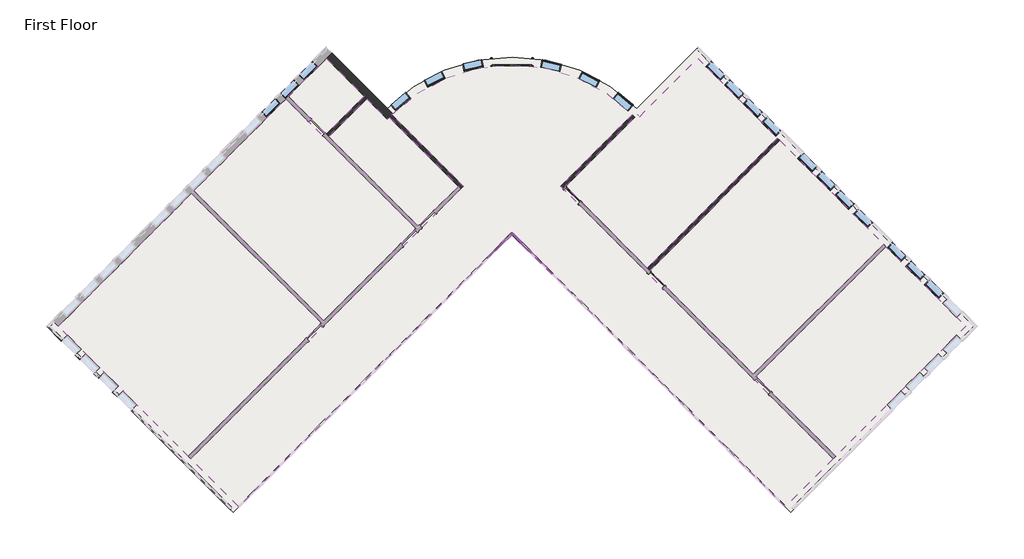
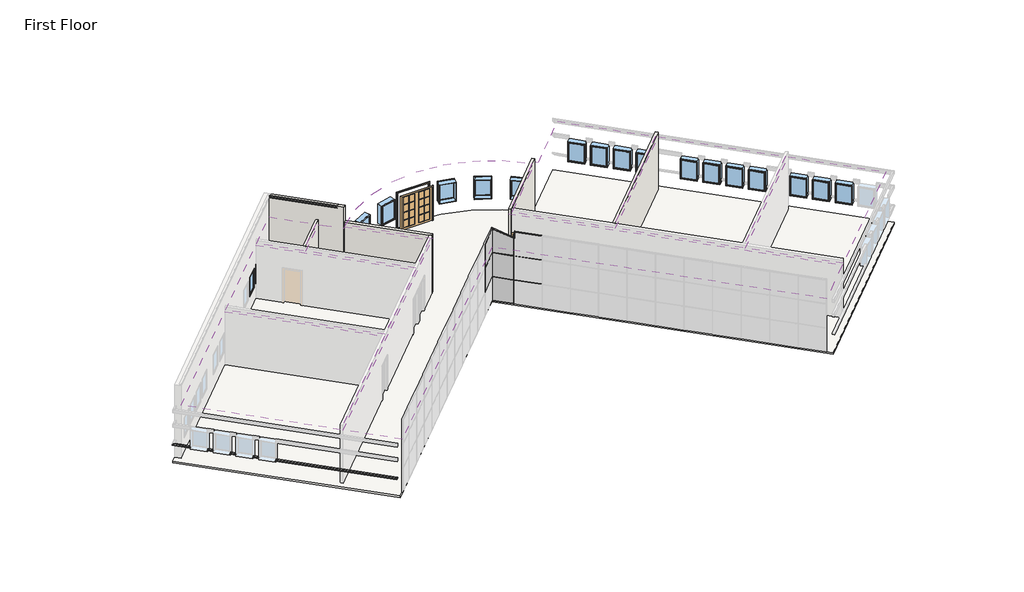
# One storey, part 4 of 5: 20 windows, 19 members, 8 coverings, 5 plates, 5 walls, 3 doors, 1 proxy, 1 slab.
"""IFC4 building model written with IfcOpenShell, lengths in millimetres."""

from ifc_helpers import new_model, si_unit, point, frame, frame_2d, origin, origin_with_axes, place, context, project, spatial, polyline, circle_curve, ellipse_curve, trimmed, segment, composite_curve, outline, extrude, faceted_brep, transform, mapped, element, save
from ifc_brep_helpers import plane_surface, cylinder_surface, revolved_surface, advanced_brep
from components import door_0a477ef8, door_5f5b55da, member_155beb68, member_42be4715, member_b8a5b5c0, member_bd80eb51, member_a3731390, member_b87a50da, member_beb33b19, member_76f0c52a, member_6675e4ca, member_9574b3de, member_b73a8a31, member_4ed907bf, system_panel_glazed_d4009c89, system_panel_glazed_b4114ee2, system_panel_glazed_dc791129, system_panel_solid_99f695d0, system_panel_solid_3576f13f, window_15c49d37, window_0e2fc6ce

model = new_model("IFC4")

# Units and contexts
model_context = context("Model", 3, world=origin())
ifc_project = project(units=[si_unit("LENGTHUNIT", "METRE", prefix="MILLI")], contexts=[model_context])

# Site, building, storey
site = spatial("IfcSite", under=ifc_project)
building = spatial("IfcBuilding", under=site)
storey = spatial("IfcBuildingStorey", under=building, Name="First Floor", Elevation=0.0)

# Proxy
placement = place(None, origin())
element("IfcBuildingElementProxy", 1, Name="Wall Sweeps", at=placement, inside=storey, context=model_context, shape_type="Brep", body=[
    faceted_brep([(-15859.0913754, -9789.3274758, 1085.85), (-15924.1982323, -9854.4343326, 1085.85), (-15948.8939367, -9879.130037, 1041.4), (-15948.8939367, -9879.130037, 1016.0), (-15924.1982323, -9854.4343326, 1016.0), (-15859.0913754, -9789.3274758, 1016.0), (-20459.2275735, -5189.1912777, 1085.85), (-20459.2275735, -5189.1912777, 1016.0), (-20524.3344303, -5254.2981346, 1016.0), (-20549.0301347, -5278.993839, 1016.0), (-20549.0301347, -5278.993839, 1041.4), (-20524.3344303, -5254.2981346, 1085.85)], [[[0, 1, 2, 3, 4, 5]], [[6, 7, 8, 9, 10, 11]], [[1, 0, 6, 11]], [[2, 1, 11, 10]], [[3, 2, 10, 9]], [[5, 4, 3, 9, 8, 7]], [[0, 5, 7, 6]]]),
    faceted_brep([(-21105.8060142, -4542.612837, 1085.85), (-21170.9128711, -4607.7196939, 1085.85), (-21195.6085754, -4632.4153982, 1041.4), (-21195.6085754, -4632.4153982, 1016.0), (-21170.9128711, -4607.7196939, 1016.0), (-21105.8060142, -4542.612837, 1016.0), (-21321.3321611, -4327.0866901, 1085.85), (-21321.3321611, -4327.0866901, 1016.0), (-21386.439018, -4392.193547, 1016.0), (-21411.1347223, -4416.8892513, 1016.0), (-21411.1347223, -4416.8892513, 1041.4), (-21386.439018, -4392.193547, 1085.85)], [[[0, 1, 2, 3, 4, 5]], [[6, 7, 8, 9, 10, 11]], [[1, 0, 6, 11]], [[2, 1, 11, 10]], [[3, 2, 10, 9]], [[5, 4, 3, 9, 8, 7]], [[0, 5, 7, 6]]]),
    faceted_brep([(-21967.9106018, -3680.5082494, 1085.85), (-22033.0174587, -3745.6151063, 1085.85), (-22057.713163, -3770.3108106, 1041.4), (-22057.713163, -3770.3108106, 1016.0), (-22033.0174587, -3745.6151063, 1016.0), (-21967.9106018, -3680.5082494, 1016.0), (-22183.4367487, -3464.9821025, 1085.85), (-22183.4367487, -3464.9821025, 1016.0), (-22248.5436056, -3530.0889594, 1016.0), (-22273.2393099, -3554.7846637, 1016.0), (-22273.2393099, -3554.7846637, 1041.4), (-22248.5436056, -3530.0889594, 1085.85)], [[[0, 1, 2, 3, 4, 5]], [[6, 7, 8, 9, 10, 11]], [[1, 0, 6, 11]], [[2, 1, 11, 10]], [[3, 2, 10, 9]], [[5, 4, 3, 9, 8, 7]], [[0, 5, 7, 6]]]),
    faceted_brep([(-22830.0151894, -2818.4036618, 1085.85), (-22895.1220463, -2883.5105187, 1085.85), (-22919.8177506, -2908.206223, 1041.4), (-22919.8177506, -2908.206223, 1016.0), (-22895.1220463, -2883.5105187, 1016.0), (-22830.0151894, -2818.4036618, 1016.0), (-23045.5413363, -2602.8775149, 1085.85), (-23045.5413363, -2602.8775149, 1016.0), (-23110.6481932, -2667.9843718, 1016.0), (-23135.3438975, -2692.6800761, 1016.0), (-23135.3438975, -2692.6800761, 1041.4), (-23110.6481932, -2667.9843718, 1085.85)], [[[0, 1, 2, 3, 4, 5]], [[6, 7, 8, 9, 10, 11]], [[1, 0, 6, 11]], [[2, 1, 11, 10]], [[3, 2, 10, 9]], [[5, 4, 3, 9, 8, 7]], [[0, 5, 7, 6]]]),
    faceted_brep([(-23692.119777, -1956.2990742, 1085.85), (-23757.2266339, -2021.405931, 1085.85), (-23781.9223383, -2046.1016354, 1041.4), (-23781.9223383, -2046.1016354, 1016.0), (-23757.2266339, -2021.405931, 1016.0), (-23692.119777, -1956.2990742, 1016.0), (-24290.4293411, -1357.9895101, 1085.85), (-24290.4293411, -1357.9895101, 1016.0), (-24470.0344635, -1357.9895101, 1016.0), (-24470.0344635, -1357.9895101, 1041.4), (-24420.6430549, -1357.9895101, 1085.85)], [[[0, 1, 2, 3, 4, 5]], [[6, 7, 8, 9, 10]], [[1, 0, 6, 10]], [[2, 1, 10, 9]], [[3, 2, 9, 8]], [[5, 4, 3, 8, 7]], [[0, 5, 7, 6]]]),
])

# Coverings
element("IfcCovering", 2, ObjectType="2' x 2' ACT System", at=placement, inside=storey, context=model_context, shape_type="SweptSolid", body=[
    extrude(outline(polyline([(-11706.7276692, -1216.4326939), (-17885.2616628, -7394.9666875), (-23922.2388402, -1357.9895101), (-17743.7048466, 4820.5444835), (-11706.7276692, -1216.4326939)])), frame((0.0, 0.0, 3352.8), z_axis=(0.0, 0.0, 1.0), x_axis=(1.0, 0.0, 0.0)), (0.0, 0.0, 1.0), 57.15),
])
element("IfcCovering", 3, ObjectType="2' x 2' ACT System", at=placement, inside=storey, context=model_context, shape_type="SweptSolid", body=[
    extrude(outline(polyline([(-17633.6967091, 4930.552621), (-13359.2125777, 9205.0367523), (-7322.2354004, 3168.0595749), (-11596.7195317, -1106.4245564), (-17633.6967091, 4930.552621)])), frame((0.0, 0.0, 3352.8), z_axis=(0.0, 0.0, 1.0), x_axis=(1.0, 0.0, 0.0)), (0.0, 0.0, 1.0), 57.15),
])
element("IfcCovering", 4, ObjectType="2' x 2' ACT System", at=placement, inside=storey, context=model_context, shape_type="SweptSolid", body=[
    extrude(outline(polyline([(-13249.2044403, 9315.0448898), (-11489.0742405, 11075.1750895), (-9728.9440408, 9315.0448898), (-11489.0742405, 7554.9146901), (-13249.2044403, 9315.0448898)])), frame((0.0, 0.0, 3352.8), z_axis=(0.0, 0.0, 1.0), x_axis=(1.0, 0.0, 0.0)), (0.0, 0.0, 1.0), 57.15),
])
element("IfcCovering", 5, ObjectType="2' x 2' ACT System", at=placement, inside=storey, context=model_context, shape_type="SweptSolid", body=[
    extrude(outline(composite_curve([segment(polyline([(-11379.066103, 7444.9065526), (-9618.9359033, 9205.0367523), (-8658.0122729, 8244.1131219)]), True, "CONTINUOUS"), segment(trimmed(circle_curve(frame_2d((-2868.0283643, 2903.1420194)), 7877.175), [point((-8658.0122729, 8244.1131219))], [point((-8557.7157352, 8350.8336041))], False, "CARTESIAN"), True, "CONTINUOUS"), segment(polyline([(-8557.7157352, 8350.8336041), (-5348.5885532, 5141.7064221), (-7212.2272629, 3278.0677124), (-11379.066103, 7444.9065526)]), True, "CONTINUOUS")], self_intersect=False)), frame((0.0, 0.0, 3352.8), z_axis=(0.0, 0.0, 1.0), x_axis=(1.0, 0.0, 0.0)), (0.0, 0.0, 1.0), 57.15),
])
element("IfcCovering", 6, ObjectType="2' x 2' ACT System", at=placement, inside=storey, context=model_context, shape_type="SweptSolid", body=[
    extrude(outline(composite_curve([segment(polyline([(-607.4844504, 5141.7064221), (12039.1967967, -7504.974825), (9814.3383427, -9729.833279), (-2868.0283643, 2952.533428), (-15550.3950713, -9729.833279), (-17775.2535253, -7504.974825), (-5128.5722782, 5141.7064221), (-8449.0111375, 8462.1452813)]), True, "CONTINUOUS"), segment(trimmed(circle_curve(frame_2d((-2868.0283643, 2903.1420194)), 7877.175), [point((-8449.0111375, 8462.1452813))], [point((2712.9544089, 8462.1452813))], False, "CARTESIAN"), True, "CONTINUOUS"), segment(polyline([(2712.9544089, 8462.1452813), (-607.4844504, 5141.7064221)]), True, "CONTINUOUS")], self_intersect=False)), frame((0.0, 0.0, 3352.8), z_axis=(0.0, 0.0, 1.0), x_axis=(1.0, 0.0, 0.0)), (0.0, 0.0, 1.0), 57.15),
])
element("IfcCovering", 7, ObjectType="2' x 2' ACT System", at=placement, inside=storey, context=model_context, shape_type="SweptSolid", body=[
    extrude(outline(polyline([(2947.192033, 8476.3666305), (3050.2065213, 8372.3640989), (5753.0175119, 11075.1750895), (9452.8830338, 7375.3095676), (3415.9058564, 1338.3323903), (-387.4681754, 5141.7064221), (2947.192033, 8476.3666305)])), frame((0.0, 0.0, 3352.8), z_axis=(0.0, 0.0, 1.0), x_axis=(1.0, 0.0, 0.0)), (0.0, 0.0, 1.0), 57.15),
])
element("IfcCovering", 8, ObjectType="2' x 2' ACT System", at=placement, inside=storey, context=model_context, shape_type="SweptSolid", body=[
    extrude(outline(polyline([(3525.9139939, 1228.3242528), (9562.8911713, 7265.3014302), (14376.3084522, 2451.8841493), (8339.3312748, -3585.0930281), (3525.9139939, 1228.3242528)])), frame((0.0, 0.0, 3352.8), z_axis=(0.0, 0.0, 1.0), x_axis=(1.0, 0.0, 0.0)), (0.0, 0.0, 1.0), 57.15),
])
element("IfcCovering", 9, ObjectType="2' x 2' ACT System", at=placement, inside=storey, context=model_context, shape_type="SweptSolid", body=[
    extrude(outline(polyline([(8449.3394123, -3695.1011656), (14486.3165897, 2341.8760118), (18186.1821115, -1357.9895101), (12149.2049342, -7394.9666875), (8449.3394123, -3695.1011656)])), frame((0.0, 0.0, 3352.8), z_axis=(0.0, 0.0, 1.0), x_axis=(1.0, 0.0, 0.0)), (0.0, 0.0, 1.0), 57.15),
])

# Doors
door_shape = door_0a477ef8(model_context)
element("IfcDoor", 10, ObjectType="Double-Glass 2 : 72\" x 84\"", at=placement, inside=storey, context=model_context, shape_type="MappedRepresentation", body=[
    mapped(door_shape, transform((-2868.7603243, 10905.5717204, 0.0), x_axis=(-0.9999999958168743, -9.146721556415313e-05, 0.0), y_axis=(9.146721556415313e-05, -0.9999999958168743, 0.0), z_axis=(0.0, 0.0, 1.0))),
])
door_2_shape = door_5f5b55da(model_context)
element("IfcDoor", 11, ObjectType="Single-Glass 1 : 36\" x 84\"", at=placement, inside=storey, context=model_context, shape_type="MappedRepresentation", body=[
    mapped(door_2_shape, transform((-66.4240191, 4710.6541283, 0.0), x_axis=(-0.7071067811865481, 0.7071067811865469, 0.0), y_axis=(-0.7071067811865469, -0.7071067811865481, 0.0), z_axis=(0.0, 0.0, 1.0))),
])
element("IfcDoor", 12, ObjectType="Single-Glass 1 : 36\" x 84\"", at=placement, inside=storey, context=model_context, shape_type="MappedRepresentation", body=[
    mapped(door_2_shape, transform((3846.9581502, 797.271959, 0.0), x_axis=(-0.7071067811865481, 0.7071067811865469, 0.0), y_axis=(-0.7071067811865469, -0.7071067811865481, 0.0), z_axis=(0.0, 0.0, 1.0))),
])

# Members
member_shape = member_155beb68(model_context)
element("IfcMember", 13, ObjectType="Rectangular Mullion : 1.5\" x 2.5\" Rectangular", at=placement, inside=storey, context=model_context, shape_type="MappedRepresentation", body=[
    mapped(member_shape, transform((-2039.5997371, 2124.1048009, 1524.0), x_axis=(-0.7071067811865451, 0.70710678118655, 0.0), y_axis=(0.70710678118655, 0.7071067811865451, 0.0), z_axis=(0.0, 0.0, -1.0))),
])
element("IfcMember", 14, ObjectType="Rectangular Mullion : 1.5\" x 2.5\" Rectangular", at=placement, inside=storey, context=model_context, shape_type="MappedRepresentation", body=[
    mapped(member_shape, transform((-2039.5997371, 2124.1048009, 0.0), x_axis=(-0.7071067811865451, 0.70710678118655, 0.0), y_axis=(0.70710678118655, 0.7071067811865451, 0.0), z_axis=(0.0, 0.0, -1.0))),
])
member_2_shape = member_42be4715(model_context)
element("IfcMember", 15, ObjectType="Rectangular Mullion : 1.5\" x 2.5\" Rectangular", at=placement, inside=storey, context=model_context, shape_type="MappedRepresentation", body=[
    mapped(member_2_shape, transform((-2026.129353, 2110.6344167, 3048.0), x_axis=(0.0, 0.0, 1.0), y_axis=(0.7071067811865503, 0.7071067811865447, 0.0), z_axis=(-0.7071067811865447, 0.7071067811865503, 0.0))),
])
element("IfcMember", 16, ObjectType="Rectangular Mullion : 1.5\" x 2.5\" Rectangular", at=placement, inside=storey, context=model_context, shape_type="MappedRepresentation", body=[
    mapped(member_2_shape, transform((-2026.129353, 2110.6344167, 1524.0), x_axis=(0.0, 0.0, 1.0), y_axis=(0.7071067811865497, 0.7071067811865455, 0.0), z_axis=(-0.7071067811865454, 0.7071067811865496, 0.0))),
])
member_3_shape = member_b8a5b5c0(model_context)
element("IfcMember", 17, ObjectType="Rectangular Mullion : 1.5\" x 2.5\" Rectangular", at=placement, inside=storey, context=model_context, shape_type="MappedRepresentation", body=[
    mapped(member_3_shape, transform((-2894.9691327, 2925.5926597, 0.0), x_axis=(0.0, 0.0, -1.0), y_axis=(-0.7071067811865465, 0.7071067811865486, 0.0), z_axis=(0.7071067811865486, 0.7071067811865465, 0.0))),
])
member_4_shape = member_bd80eb51(model_context)
element("IfcMember", 18, ObjectType="Rectangular Mullion : 1.5\" x 2.5\" Rectangular", at=placement, inside=storey, context=model_context, shape_type="MappedRepresentation", body=[
    mapped(member_4_shape, transform((-2053.0701213, 2137.575185, 0.0), x_axis=(0.0, 0.0, -1.0), y_axis=(0.7071067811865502, 0.7071067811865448, 0.0), z_axis=(0.7071067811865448, -0.7071067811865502, 0.0))),
])
member_5_shape = member_a3731390(model_context)
element("IfcMember", 19, ObjectType="Rectangular Mullion : 1.5\" x 2.5\" Rectangular", at=placement, inside=storey, context=model_context, shape_type="MappedRepresentation", body=[
    mapped(member_5_shape, transform((-2841.0875959, 2925.5926597, 3048.0), x_axis=(0.0, 0.0, 1.0), y_axis=(0.7071067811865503, 0.7071067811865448, 0.0), z_axis=(-0.7071067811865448, 0.7071067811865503, 0.0))),
])
element("IfcMember", 20, ObjectType="Rectangular Mullion : 1.5\" x 2.5\" Rectangular", at=placement, inside=storey, context=model_context, shape_type="MappedRepresentation", body=[
    mapped(member_5_shape, transform((-2841.0875959, 2925.5926597, 1524.0), x_axis=(0.0, 0.0, 1.0), y_axis=(0.7071067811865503, 0.7071067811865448, 0.0), z_axis=(-0.7071067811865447, 0.7071067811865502, 0.0))),
])
member_6_shape = member_b87a50da(model_context)
element("IfcMember", 21, ObjectType="Rectangular Mullion : 1.5\" x 2.5\" Rectangular", at=placement, inside=storey, context=model_context, shape_type="MappedRepresentation", body=[
    mapped(member_6_shape, transform((-2868.0283643, 2952.533428, 1524.0), x_axis=(0.7071067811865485, 0.7071067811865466, 0.0), y_axis=(-0.7071067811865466, 0.7071067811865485, 0.0), z_axis=(0.0, 0.0, 1.0))),
])
element("IfcMember", 22, ObjectType="Rectangular Mullion : 1.5\" x 2.5\" Rectangular", at=placement, inside=storey, context=model_context, shape_type="MappedRepresentation", body=[
    mapped(member_6_shape, transform((-2868.0283643, 2952.533428, 3048.0), x_axis=(0.7071067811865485, 0.7071067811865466, 0.0), y_axis=(-0.7071067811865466, 0.7071067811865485, 0.0), z_axis=(0.0, 0.0, 1.0))),
])
element("IfcMember", 23, ObjectType="Rectangular Mullion : 1.5\" x 2.5\" Rectangular", at=placement, inside=storey, context=model_context, shape_type="MappedRepresentation", body=[
    mapped(member_6_shape, transform((-2868.0283643, 2952.533428, 4572.0), x_axis=(0.7071067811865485, 0.7071067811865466, 0.0), y_axis=(-0.7071067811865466, 0.7071067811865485, 0.0), z_axis=(0.0, 0.0, 1.0))),
])
element("IfcMember", 24, ObjectType="Rectangular Mullion : 1.5\" x 2.5\" Rectangular", at=placement, inside=storey, context=model_context, shape_type="MappedRepresentation", body=[
    mapped(member_6_shape, transform((-2868.0283643, 2952.533428, 0.0), x_axis=(-0.7071067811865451, 0.70710678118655, 0.0), y_axis=(0.70710678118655, 0.7071067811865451, 0.0), z_axis=(0.0, 0.0, -1.0))),
])
element("IfcMember", 25, ObjectType="Rectangular Mullion : 1.5\" x 2.5\" Rectangular", at=placement, inside=storey, context=model_context, shape_type="MappedRepresentation", body=[
    mapped(member_6_shape, transform((-2868.0283643, 2952.533428, 1524.0), x_axis=(-0.7071067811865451, 0.70710678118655, 0.0), y_axis=(0.70710678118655, 0.7071067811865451, 0.0), z_axis=(0.0, 0.0, -1.0))),
])
member_7_shape = member_beb33b19(model_context)
element("IfcMember", 26, ObjectType="Rectangular Mullion : 1.5\" x 2.5\" Rectangular", at=placement, inside=storey, context=model_context, shape_type="MappedRepresentation", body=[
    mapped(member_7_shape, transform((-2039.5997371, 2124.1048009, 4181.475), x_axis=(0.22360679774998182, -0.22360679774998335, 0.9486832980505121), y_axis=(0.7071067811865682, 0.7071067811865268, 0.0), z_axis=(-0.670820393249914, 0.6708203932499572, 0.316227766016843))),
])
member_8_shape = member_76f0c52a(model_context)
element("IfcMember", 27, ObjectType="Rectangular Mullion : 1.5\" x 2.5\" Rectangular", at=placement, inside=storey, context=model_context, shape_type="MappedRepresentation", body=[
    mapped(member_8_shape, transform((-2868.0283643, 2952.533428, 4572.0), x_axis=(0.22360679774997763, -0.22360679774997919, 0.9486832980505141), y_axis=(0.7071067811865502, 0.7071067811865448, 0.0), z_axis=(-0.6708203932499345, 0.6708203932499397, 0.3162277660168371))),
])
member_9_shape = member_6675e4ca(model_context)
element("IfcMember", 28, ObjectType="Rectangular Mullion : 1.5\" x 2.5\" Rectangular", at=placement, inside=storey, context=model_context, shape_type="MappedRepresentation", body=[
    mapped(member_9_shape, transform((-2005.9237767, 2090.4288404, 4165.6), x_axis=(-0.7071067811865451, 0.70710678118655, 0.0), y_axis=(0.70710678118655, 0.7071067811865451, 0.0), z_axis=(0.0, 0.0, -1.0))),
])
member_10_shape = member_9574b3de(model_context)
element("IfcMember", 29, ObjectType="Rectangular Mullion : 1.5\" x 2.5\" Rectangular", at=placement, inside=storey, context=model_context, shape_type="MappedRepresentation", body=[
    mapped(member_10_shape, transform((-1978.9830083, 2063.488072, 4572.0), x_axis=(0.0, 0.0, 1.0), y_axis=(0.707106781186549, 0.7071067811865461, 0.0), z_axis=(-0.707106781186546, 0.7071067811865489, 0.0))),
])
member_11_shape = member_b73a8a31(model_context)
element("IfcMember", 30, ObjectType="Rectangular Mullion : 1.5\" x 2.5\" Rectangular", at=placement, inside=storey, context=model_context, shape_type="MappedRepresentation", body=[
    mapped(member_11_shape, transform((-2039.5997371, 2124.1048009, 3048.0), x_axis=(-0.7071067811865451, 0.70710678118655, 0.0), y_axis=(0.70710678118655, 0.7071067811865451, 0.0), z_axis=(0.0, 0.0, -1.0))),
])
member_12_shape = member_4ed907bf(model_context)
element("IfcMember", 31, ObjectType="Rectangular Mullion : 1.5\" x 2.5\" Rectangular", at=placement, inside=storey, context=model_context, shape_type="MappedRepresentation", body=[
    mapped(member_12_shape, transform((-2868.0283643, 2952.533428, 3048.0), x_axis=(-0.7071067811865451, 0.70710678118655, 0.0), y_axis=(0.70710678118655, 0.7071067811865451, 0.0), z_axis=(0.0, 0.0, -1.0))),
])

# Plates
system_panel_glazed_shape = system_panel_glazed_d4009c89(model_context)
element("IfcPlate", 32, ObjectType="System Panel : Glazed", at=placement, inside=storey, context=model_context, shape_type="MappedRepresentation", body=[
    mapped(system_panel_glazed_shape, transform((-3413.5789237, 2406.9828687, 1543.05), x_axis=(-0.7071067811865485, -0.7071067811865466, 0.0), y_axis=(0.7071067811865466, -0.7071067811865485, 0.0), z_axis=(0.0, 0.0, 1.0))),
])
system_panel_glazed_2_shape = system_panel_glazed_b4114ee2(model_context)
element("IfcPlate", 33, ObjectType="System Panel : Glazed", at=placement, inside=storey, context=model_context, shape_type="MappedRepresentation", body=[
    mapped(system_panel_glazed_2_shape, transform((-2447.0788586, 2531.5839223, 38.1), x_axis=(-0.7071067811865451, 0.70710678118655, 0.0), y_axis=(-0.70710678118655, -0.7071067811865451, 0.0), z_axis=(0.0, 0.0, 1.0))),
])
system_panel_glazed_3_shape = system_panel_glazed_dc791129(model_context)
element("IfcPlate", 34, ObjectType="System Panel : Glazed", at=placement, inside=storey, context=model_context, shape_type="MappedRepresentation", body=[
    mapped(system_panel_glazed_3_shape, transform((-2447.0788586, 2531.5839223, 1543.05), x_axis=(-0.7071067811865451, 0.70710678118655, 0.0), y_axis=(-0.70710678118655, -0.7071067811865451, 0.0), z_axis=(0.0, 0.0, 1.0))),
])
system_panel_solid_shape = system_panel_solid_99f695d0(model_context)
element("IfcPlate", 35, ObjectType="System Panel : Solid", at=placement, inside=storey, context=model_context, shape_type="MappedRepresentation", body=[
    mapped(system_panel_solid_shape, transform((-3413.5789237, 2406.9828687, 3067.05), x_axis=(-0.7071067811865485, -0.7071067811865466, 0.0), y_axis=(0.7071067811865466, -0.7071067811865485, 0.0), z_axis=(0.0, 0.0, 1.0))),
])
system_panel_solid_2_shape = system_panel_solid_3576f13f(model_context)
element("IfcPlate", 36, ObjectType="System Panel : Solid", at=placement, inside=storey, context=model_context, shape_type="MappedRepresentation", body=[
    mapped(system_panel_solid_2_shape, transform((-2447.0788586, 2531.5839223, 3067.05), x_axis=(-0.7071067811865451, 0.70710678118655, 0.0), y_axis=(-0.70710678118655, -0.7071067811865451, 0.0), z_axis=(0.0, 0.0, 1.0))),
])

# Slab
element("IfcSlab", 37, ObjectType="4\" Concrete Slab", at=placement, inside=storey, context=model_context, shape_type="SweptSolid", body=[
    extrude(outline(composite_curve([segment(polyline([(2926.4294954, 8746.9912878), (5753.0175119, 11573.5793042), (18684.5863263, -1357.9895101), (10063.54045, -9979.0353863), (-2868.0283643, 2952.533428), (-15799.5971786, -9979.0353863), (-24420.6430549, -1357.9895101), (-11489.0742405, 11573.5793042), (-8662.486224, 8746.9912878)]), True, "CONTINUOUS"), segment(trimmed(circle_curve(frame_2d((-2868.0283643, 2903.1420194)), 8229.6), [point((-8662.486224, 8746.9912878))], [point((2926.4294954, 8746.9912878))], False, "CARTESIAN"), True, "CONTINUOUS")], self_intersect=False)), frame((0.0, 0.0, -101.6), z_axis=(0.0, 0.0, 1.0), x_axis=(1.0, 0.0, 0.0)), (0.0, 0.0, 1.0), 101.6),
])

# Walls
element("IfcWall", 38, ObjectType="Exterior - Split Face and CMU on Mtl. Stud", at=placement, inside=storey, context=model_context, shape_type="AdvancedBrep", body=[
    advanced_brep(
    [(-11489.0742405, 11075.1750895, 0.0), (-9728.9440408, 9315.0448898, 0.0), (-9618.9359033, 9205.0367523, 0.0), (-8658.0122729, 8244.1131219, 0.0), (-8658.0122729, 8244.1131219, 4689.475), (-11489.0742405, 11075.1750895, 4689.475), (-11489.0742405, 11075.1750895, 4639.3965909), (-8911.6883314, 8497.7891804, 4639.3965909), (-8911.6883314, 8497.7891804, 4572.0), (-11489.0742405, 11075.1750895, 4572.0), (-8413.2817722, 8497.7868359, 4572.0), (-8413.2817722, 8497.7868359, 0.0), (-8662.486224, 8746.9912878, 0.0), (-11239.8721332, 11324.3771969, 0.0), (-11239.8721332, 11324.3771969, 1016.0), (-8662.486224, 8746.9912878, 1016.0), (-8597.3787742, 8681.8838379, 1016.0), (-8597.3787742, 8681.8838379, 1085.85), (-8662.486224, 8746.9912878, 1085.85), (-11239.8721332, 11324.3771969, 1085.85), (-11239.8721332, 11324.3771969, 2133.6), (-8662.486224, 8746.9912878, 2133.6), (-8597.3787742, 8681.8838379, 2133.6), (-8597.3787742, 8681.8838379, 2336.8), (-8662.486224, 8746.9912878, 2336.8), (-11239.8721332, 11324.3771969, 2336.8), (-11239.8721332, 11324.3771969, 3048.0), (-8662.486224, 8746.9912878, 3048.0), (-8597.3787742, 8681.8838379, 3048.0), (-8597.3787742, 8681.8838379, 3251.2), (-8662.486224, 8746.9912878, 3251.2), (-11239.8721332, 11324.3771969, 3251.2), (-11239.8721332, 11324.3771969, 4572.0), (-8662.486224, 8746.9912878, 4572.0), (-8557.713594, 8350.8358404, 0.0), (-8478.2967797, 8432.5881297, 0.0), (-8449.0111375, 8462.1452813, 0.0), (-11304.9789901, 11259.27034, 0.0), (-11304.9789901, 11259.27034, 3251.2), (-11304.9789901, 11259.27034, 3048.0), (-11304.9789901, 11259.27034, 2336.8), (-11304.9789901, 11259.27034, 2133.6), (-11304.9789901, 11259.27034, 1085.85), (-11304.9789901, 11259.27034, 1016.0), (-11413.683542, 11150.5657881, 4653.9354839), (-8836.2976328, 8573.179879, 4653.9354839), (-8662.3967205, 8616.6880705, 1085.85), (-8662.3967205, 8616.6880705, 1016.0), (-8662.3967205, 8616.6880705, 2336.8), (-8662.3967205, 8616.6880705, 2133.6), (-8662.3967205, 8616.6880705, 3251.2), (-8662.3967205, 8616.6880705, 3048.0)],
    [
        (0, 1),
        (1, 2),
        (2, 3),
        (3, 4),
        (4, 5),
        (5, 6),
        (6, 7),
        (7, 8),
        (8, 9),
        (9, 0),
        (10, 11),
        (11, 12),
        (12, 13),
        (13, 14),
        (14, 15),
        (15, 16),
        (16, 17),
        (17, 18),
        (18, 19),
        (19, 20),
        (20, 21),
        (21, 22),
        (22, 23),
        (23, 24),
        (24, 25),
        (25, 26),
        (26, 27),
        (27, 28),
        (28, 29),
        (29, 30),
        (30, 31),
        (31, 32),
        (32, 33),
        (33, 10),
        (3, 34, circle_curve(frame((-2868.0283643, 2903.1420194, 0.0), z_axis=(0.0, 0.0, -1.0), x_axis=(1.0, 0.0, 0.0)), 7877.175)),
        (34, 35, circle_curve(frame((-2868.0283643, 2903.1420194, 0.0), z_axis=(0.0, 0.0, -1.0), x_axis=(1.0, 0.0, 0.0)), 7877.175)),
        (35, 36, circle_curve(frame((-2868.0283643, 2903.1420194, 0.0), z_axis=(0.0, 0.0, -1.0), x_axis=(1.0, 0.0, 0.0)), 7877.175)),
        (36, 11, circle_curve(frame((-2868.0283643, 2903.1420194, 0.0), z_axis=(0.0, 0.0, -1.0), x_axis=(1.0, 0.0, 0.0)), 7877.175)),
        (10, 4, ellipse_curve(frame((-2868.0283643, 2903.1420194, 4583.6416667), z_axis=(0.2236067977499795, 0.22360679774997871, 0.9486832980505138), x_axis=(0.6708203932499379, 0.6708203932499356, -0.31622776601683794)), 8303.2715092, 7877.175)),
        (37, 0),
        (9, 32),
        (31, 38),
        (38, 39),
        (39, 26),
        (25, 40),
        (40, 41),
        (41, 20),
        (19, 42),
        (42, 43),
        (43, 14),
        (13, 37),
        (5, 44),
        (44, 6),
        (33, 45),
        (45, 44),
        (37, 35),
        (46, 47),
        (47, 43),
        (42, 46),
        (17, 46, circle_curve(frame((-2868.0283643, 2903.1420194, 1085.85), z_axis=(0.0, 0.0, 1.0), x_axis=(-0.7040995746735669, 0.7101012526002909, 0.0)), 8137.525)),
        (47, 16, circle_curve(frame((-2868.0283643, 2903.1420194, 1016.0), z_axis=(0.0, 0.0, -1.0), x_axis=(-0.7040995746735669, 0.7101012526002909, 0.0)), 8137.525)),
        (48, 49),
        (49, 41),
        (40, 48),
        (49, 22, circle_curve(frame((-2868.0283643, 2903.1420194, 2133.6), z_axis=(0.0, 0.0, -1.0), x_axis=(-0.7120553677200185, 0.70212331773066, 0.0)), 8137.525)),
        (48, 23, circle_curve(frame((-2868.0283643, 2903.1420194, 2336.8), z_axis=(0.0, 0.0, -1.0), x_axis=(-0.7120553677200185, 0.70212331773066, 0.0)), 8137.525)),
        (50, 51),
        (51, 39),
        (38, 50),
        (51, 28, circle_curve(frame((-2868.0283643, 2903.1420194, 3048.0), z_axis=(0.0, 0.0, -1.0), x_axis=(-0.7120553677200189, 0.7021233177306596, 0.0)), 8137.525)),
        (50, 29, circle_curve(frame((-2868.0283643, 2903.1420194, 3251.2), z_axis=(0.0, 0.0, -1.0), x_axis=(-0.7120553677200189, 0.7021233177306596, 0.0)), 8137.525)),
        (8, 33),
        (7, 45),
    ],
    [
        plane_surface(frame((-11738.2763479, 11324.3771969, 0.0), z_axis=(-0.7071067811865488, -0.7071067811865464, 0.0), x_axis=(0.7071067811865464, -0.7071067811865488, 0.0))),
        plane_surface(frame((-11489.0742405, 11573.5793042, 0.0), z_axis=(0.7071067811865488, 0.7071067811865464, 0.0), x_axis=(-0.7071067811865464, 0.7071067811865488, 0.0))),
        revolved_surface(polyline([(5009.146635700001, 2903.1420194, 0.0), (5009.146635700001, 2903.1420194, 7209.366666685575)]), (-2868.0283643, 2903.1420194, 0.0), (0.0, 0.0, -1.0)),
        plane_surface(frame((-24171.4409475, -1607.1916175, 0.0), z_axis=(-0.7071067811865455, 0.7071067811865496, 0.0), x_axis=(0.7071067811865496, 0.7071067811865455, 0.0))),
        plane_surface(frame((-1143.8191891, 2952.533428, 4165.6), z_axis=(0.2236067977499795, 0.22360679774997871, 0.9486832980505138), x_axis=(-0.7071067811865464, 0.7071067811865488, 0.0))),
        plane_surface(frame((-11613.6752942, 11199.7761432, 0.0), z_axis=(0.0, 0.0, -1.0000000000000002), x_axis=(0.7071067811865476, 0.7071067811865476, 0.0))),
        plane_surface(frame((0.0, 0.0, 0.0), z_axis=(0.0, 0.0, -1.0), x_axis=(1.0, 0.0, 0.0))),
        plane_surface(frame((-11489.0742405, 11443.3655905, 1016.0), z_axis=(0.7071067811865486, 0.7071067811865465, 0.0), x_axis=(0.7071067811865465, -0.7071067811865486, 0.0))),
        plane_surface(frame((-2868.0283643, 2903.1420194, 1085.85), z_axis=(0.0, 0.0, -1.0), x_axis=(-0.7040995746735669, 0.7101012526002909, 0.0))),
        plane_surface(frame((-2868.0283643, 2903.1420194, 1016.0), z_axis=(0.0, 0.0, 1.0), x_axis=(-0.7040995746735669, 0.7101012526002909, 0.0))),
        cylinder_surface(frame((-2868.0283643, 2903.1420194, 1016.0), z_axis=(0.0, 0.0, -1.0), x_axis=(-0.7040995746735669, 0.7101012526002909, 0.0)), 8137.525),
        plane_surface(frame((-11489.0742405, 11443.3655905, 2133.6), z_axis=(0.7071067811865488, 0.7071067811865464, 0.0), x_axis=(0.7071067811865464, -0.7071067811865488, 0.0))),
        plane_surface(frame((-2868.0283643, 2903.1420194, 2133.6), z_axis=(0.0, 0.0, 1.0), x_axis=(-0.7120553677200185, 0.70212331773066, 0.0))),
        cylinder_surface(frame((-2868.0283643, 2903.1420194, 2133.6), z_axis=(0.0, 0.0, -1.0), x_axis=(-0.7120553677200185, 0.70212331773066, 0.0)), 8137.525),
        plane_surface(frame((-2868.0283643, 2903.1420194, 2336.8), z_axis=(0.0, 0.0, -1.0), x_axis=(-0.7120553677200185, 0.70212331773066, 0.0))),
        plane_surface(frame((-11489.0742405, 11443.3655905, 3048.0), z_axis=(0.7071067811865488, 0.7071067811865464, 0.0), x_axis=(0.7071067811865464, -0.7071067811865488, 0.0))),
        plane_surface(frame((-2868.0283643, 2903.1420194, 3048.0), z_axis=(0.0, 0.0, 1.0), x_axis=(-0.7120553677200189, 0.7021233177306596, 0.0))),
        cylinder_surface(frame((-2868.0283643, 2903.1420194, 3048.0), z_axis=(0.0, 0.0, -1.0), x_axis=(-0.7120553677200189, 0.7021233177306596, 0.0)), 8137.525),
        plane_surface(frame((-2868.0283643, 2903.1420194, 3251.2), z_axis=(0.0, 0.0, -1.0), x_axis=(-0.7120553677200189, 0.7021233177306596, 0.0))),
        plane_surface(frame((-24438.6035671, -1340.0289979, 4572.0), z_axis=(0.0, 0.0, 1.0000000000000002), x_axis=(0.7071067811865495, 0.7071067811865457, 0.0))),
        plane_surface(frame((-8662.486224, 8746.9912878, 4185.7445793), z_axis=(-0.7071067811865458, 0.7071067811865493, 0.0), x_axis=(0.7071067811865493, 0.7071067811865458, 0.0))),
        plane_surface(frame((-11489.0742405, 11034.763937, 4635.5), z_axis=(0.09553946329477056, 0.09553946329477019, -0.9908301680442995), x_axis=(0.7071067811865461, -0.7071067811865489, 0.0))),
    ],
    [
        (0, [[1, 2, 3, 4, 5, 6, 7, 8, 9, 10]]),
        (1, [[11, 12, 13, 14, 15, 16, 17, 18, 19, 20, 21, 22, 23, 24, 25, 26, 27, 28, 29, 30, 31, 32, 33, 34]]),
        (2, [[-4, 35, 36, 37, 38, -11, 39]]),
        (3, [[40, -10, 41, -32, 42, 43, 44, -26, 45, 46, 47, -20, 48, 49, 50, -14, 51]]),
        (3, [[-6, 52, 53]]),
        (4, [[-5, -39, -34, 54, 55, -52]]),
        (5, [[-3, -2, -1, -40, 56, -36, -35]]),
        (6, [[-51, -13, -12, -38, -37, -56]]),
        (7, [[57, 58, -49, 59]]),
        (8, [[60, -59, -48, -19, -18]]),
        (9, [[-58, 61, -16, -15, -50]]),
        (10, [[-57, -60, -17, -61]]),
        (11, [[62, 63, -46, 64]]),
        (12, [[-63, 65, -22, -21, -47]]),
        (13, [[-62, 66, -23, -65]]),
        (14, [[-66, -64, -45, -25, -24]]),
        (15, [[67, 68, -43, 69]]),
        (16, [[-68, 70, -28, -27, -44]]),
        (17, [[-67, 71, -29, -70]]),
        (18, [[-71, -69, -42, -31, -30]]),
        (19, [[72, -33, -41, -9]]),
        (20, [[73, -54, -72, -8]]),
        (21, [[-73, -7, -53, -55]]),
    ],
),
])
element("IfcWall", 39, ObjectType="Interior - 6 1/8\" Partition (2-hr)", at=placement, inside=storey, context=model_context, shape_type="AdvancedBrep", body=[
    advanced_brep(
    [(-5128.5722782, 5141.7064221, 0.0), (-8449.0111375, 8462.1452813, 0.0), (-8449.0111375, 8462.1452813, 3657.6), (-5128.5722782, 5141.7064221, 3657.6), (-5238.5804157, 5031.6982846, 0.0), (-5238.5804157, 5031.6982846, 3657.6), (-5348.5885532, 5141.7064221, 3657.6), (-8557.7157352, 8350.8336041, 3657.6), (-8557.7157352, 8350.8336041, 0.0), (-5348.5885532, 5141.7064221, 0.0)],
    [
        (0, 1),
        (1, 2),
        (2, 3),
        (3, 0),
        (4, 5),
        (5, 6),
        (6, 7),
        (7, 8),
        (8, 9),
        (9, 4),
        (0, 4),
        (8, 1, circle_curve(frame((-2868.0283643, 2903.1420194, 0.0), z_axis=(0.0, 0.0, -1.0), x_axis=(1.0, 0.0, 0.0)), 7877.175)),
        (2, 7, circle_curve(frame((-2868.0283643, 2903.1420194, 3657.6), z_axis=(0.0, 0.0, 1.0), x_axis=(1.0, 0.0, 0.0)), 7877.175)),
        (5, 3),
    ],
    [
        plane_surface(frame((-5183.576347, 5196.7104908, 0.0), z_axis=(0.7071067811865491, 0.7071067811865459, 0.0), x_axis=(-0.7071067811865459, 0.7071067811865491, 0.0))),
        plane_surface(frame((-5293.5844845, 5086.7023533, 0.0), z_axis=(-0.7071067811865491, -0.7071067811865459, 0.0), x_axis=(0.7071067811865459, -0.7071067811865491, 0.0))),
        plane_surface(frame((-5183.576347, 5196.7104908, 0.0), z_axis=(0.0, 0.0, -1.0), x_axis=(-0.707106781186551, -0.7071067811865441, 0.0))),
        plane_surface(frame((-8573.2406241, 8586.374768, 3657.6), z_axis=(0.0, 0.0, 1.0), x_axis=(-0.707106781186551, -0.7071067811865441, 0.0))),
        plane_surface(frame((-17899.854579, -7629.5758786, 0.0), z_axis=(0.7071067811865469, -0.7071067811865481, 0.0), x_axis=(0.7071067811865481, 0.7071067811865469, 0.0))),
        cylinder_surface(frame((-2868.0283643, 2903.1420194, 0.0), z_axis=(0.0, 0.0, -1.0), x_axis=(1.0, 0.0, 0.0)), 7877.175),
    ],
    [
        (0, [[1, 2, 3, 4]]),
        (1, [[5, 6, 7, 8, 9, 10]]),
        (2, [[-1, 11, -10, -9, 12]]),
        (3, [[-3, 13, -7, -6, 14]]),
        (4, [[-4, -14, -5, -11]]),
        (5, [[-2, -12, -8, -13]]),
    ],
),
])
element("IfcWall", 40, ObjectType="Interior - 6 1/8\" Partition (2-hr)", at=placement, inside=storey, context=model_context, shape_type="SweptSolid", body=[
    extrude(outline(polyline([(-11489.0742405, 7554.9146901), (-9728.9440408, 9315.0448898), (-9618.9359033, 9205.0367523), (-11379.066103, 7444.9065526), (-11489.0742405, 7554.9146901)])), origin_with_axes(), (0.0, 0.0, 1.0), 3657.6),
])
element("IfcWall", 41, ObjectType="Interior - 6 1/8\" Partition (2-hr)", at=placement, inside=storey, context=model_context, shape_type="AdvancedBrep", body=[
    advanced_brep(
    [(-497.4763129, 5031.6982846, 0.0), (-387.4681754, 5141.7064221, 0.0), (2821.6590066, 8350.8336041, 0.0), (2821.6590066, 8350.8336041, 3657.6), (-387.4681754, 5141.7064221, 3657.6), (-497.4763129, 5031.6982846, 3657.6), (-607.4844504, 5141.7064221, 0.0), (-607.4844504, 5141.7064221, 3657.6), (2712.9544089, 8462.1452813, 3657.6), (2712.9544089, 8462.1452813, 0.0)],
    [
        (0, 1),
        (1, 2),
        (2, 3),
        (3, 4),
        (4, 5),
        (5, 0),
        (6, 7),
        (7, 8),
        (8, 9),
        (9, 6),
        (0, 6),
        (9, 2, circle_curve(frame((-2868.0283643, 2903.1420194, 0.0), z_axis=(0.0, 0.0, -1.0), x_axis=(1.0, 0.0, 0.0)), 7877.175)),
        (3, 8, circle_curve(frame((-2868.0283643, 2903.1420194, 3657.6), z_axis=(0.0, 0.0, 1.0), x_axis=(1.0, 0.0, 0.0)), 7877.175)),
        (7, 5),
    ],
    [
        plane_surface(frame((-442.4722441, 5086.7023533, 0.0), z_axis=(0.7071067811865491, -0.7071067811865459, 0.0), x_axis=(0.7071067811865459, 0.7071067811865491, 0.0))),
        plane_surface(frame((-552.4803816, 5196.7104908, 0.0), z_axis=(-0.7071067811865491, 0.7071067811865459, 0.0), x_axis=(-0.7071067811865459, -0.7071067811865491, 0.0))),
        plane_surface(frame((-442.4722441, 5086.7023533, 0.0), z_axis=(0.0, 0.0, -1.0), x_axis=(-0.707106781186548, 0.7071067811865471, 0.0))),
        plane_surface(frame((2947.192033, 8476.3666305, 3657.6), z_axis=(0.0, 0.0, 1.0000000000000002), x_axis=(-0.7071067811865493, 0.7071067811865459, 0.0))),
        plane_surface(frame((12163.7978503, -7629.5758786, 0.0), z_axis=(-0.7071067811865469, -0.7071067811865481, 0.0), x_axis=(0.7071067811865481, -0.7071067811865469, 0.0))),
        cylinder_surface(frame((-2868.0283643, 2903.1420194, 0.0), z_axis=(0.0, 0.0, -1.0), x_axis=(1.0, 0.0, 0.0)), 7877.175),
    ],
    [
        (0, [[1, 2, 3, 4, 5, 6]]),
        (1, [[7, 8, 9, 10]]),
        (2, [[-2, -1, 11, -10, 12]]),
        (3, [[-5, -4, 13, -8, 14]]),
        (4, [[-6, -14, -7, -11]]),
        (5, [[-3, -12, -9, -13]]),
    ],
),
])
element("IfcWall", 42, ObjectType="Interior - 6 1/8\" Partition (2-hr)", at=placement, inside=storey, context=model_context, shape_type="SweptSolid", body=[
    extrude(outline(polyline([(3415.9058564, 1338.3323903), (9452.8830338, 7375.3095676), (9562.8911713, 7265.3014302), (3525.9139939, 1228.3242528), (3415.9058564, 1338.3323903)])), origin_with_axes(), (0.0, 0.0, 1.0), 3657.6),
])

# Windows
window_shape = window_15c49d37(model_context)
element("IfcWindow", 43, ObjectType="Fixed : 36\" x 48\"", at=placement, inside=storey, context=model_context, shape_type="MappedRepresentation", body=[
    mapped(window_shape, transform((-8066.2237793, 9037.6928325, 0.0), x_axis=(-0.7659856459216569, -0.6428576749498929, 0.0), y_axis=(0.6428576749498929, -0.7659856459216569, 0.0), z_axis=(0.0, 0.0, 1.0))),
])
element("IfcWindow", 44, ObjectType="Fixed : 36\" x 48\"", at=placement, inside=storey, context=model_context, shape_type="MappedRepresentation", body=[
    mapped(window_shape, transform((-4714.6266038, 10728.998151, 0.0), x_axis=(-0.9743494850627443, -0.2250401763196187, 0.0), y_axis=(0.2250401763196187, -0.9743494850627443, 0.0), z_axis=(0.0, 0.0, 1.0))),
])
element("IfcWindow", 45, ObjectType="Fixed : 36\" x 48\"", at=placement, inside=storey, context=model_context, shape_type="MappedRepresentation", body=[
    mapped(window_shape, transform((-6490.5147795, 10081.6893252, 0.0), x_axis=(-0.8948935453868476, -0.4462796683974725, 0.0), y_axis=(0.4462796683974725, -0.8948935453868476, 0.0), z_axis=(0.0, 0.0, 1.0))),
])
element("IfcWindow", 46, ObjectType="Fixed : 36\" x 48\"", at=placement, inside=storey, context=model_context, shape_type="MappedRepresentation", body=[
    mapped(window_shape, transform((6554.2698062, 10523.1249026, 0.0), x_axis=(-0.7071067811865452, 0.7071067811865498, 0.0), y_axis=(-0.7071067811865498, -0.7071067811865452, 0.0), z_axis=(0.0, 0.0, 1.0))),
])
element("IfcWindow", 47, ObjectType="Fixed : 36\" x 48\"", at=placement, inside=storey, context=model_context, shape_type="MappedRepresentation", body=[
    mapped(window_shape, transform((7416.3743938, 9661.020315, 0.0), x_axis=(-0.7071067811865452, 0.7071067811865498, 0.0), y_axis=(-0.7071067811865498, -0.7071067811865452, 0.0), z_axis=(0.0, 0.0, 1.0))),
])
element("IfcWindow", 48, ObjectType="Fixed : 36\" x 48\"", at=placement, inside=storey, context=model_context, shape_type="MappedRepresentation", body=[
    mapped(window_shape, transform((8278.4789814, 8798.9157274, 0.0), x_axis=(-0.7071067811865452, 0.7071067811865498, 0.0), y_axis=(-0.7071067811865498, -0.7071067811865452, 0.0), z_axis=(0.0, 0.0, 1.0))),
])
element("IfcWindow", 49, ObjectType="Fixed : 36\" x 48\"", at=placement, inside=storey, context=model_context, shape_type="MappedRepresentation", body=[
    mapped(window_shape, transform((9140.583569, 7936.8111398, 0.0), x_axis=(-0.7071067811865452, 0.7071067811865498, 0.0), y_axis=(-0.7071067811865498, -0.7071067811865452, 0.0), z_axis=(0.0, 0.0, 1.0))),
])
window_2_shape = window_0e2fc6ce(model_context)
element("IfcWindow", 50, ObjectType="Fixed : 36\" x 48\"", at=placement, inside=storey, context=model_context, shape_type="MappedRepresentation", body=[
    mapped(window_2_shape, transform((-12290.3265348, 10523.1249026, 0.0), x_axis=(0.7071067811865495, 0.7071067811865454, 0.0), y_axis=(-0.7071067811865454, 0.7071067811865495, 0.0), z_axis=(0.0, 0.0, 1.0))),
])
element("IfcWindow", 51, ObjectType="Fixed : 36\" x 48\"", at=placement, inside=storey, context=model_context, shape_type="MappedRepresentation", body=[
    mapped(window_2_shape, transform((-13152.4311224, 9661.020315, 0.0), x_axis=(0.7071067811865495, 0.7071067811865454, 0.0), y_axis=(-0.7071067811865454, 0.7071067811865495, 0.0), z_axis=(0.0, 0.0, 1.0))),
])
element("IfcWindow", 52, ObjectType="Fixed : 36\" x 48\"", at=placement, inside=storey, context=model_context, shape_type="MappedRepresentation", body=[
    mapped(window_2_shape, transform((-14014.53571, 8798.9157274, 0.0), x_axis=(0.7071067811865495, 0.7071067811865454, 0.0), y_axis=(-0.7071067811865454, 0.7071067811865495, 0.0), z_axis=(0.0, 0.0, 1.0))),
])
element("IfcWindow", 53, ObjectType="Fixed : 36\" x 48\"", at=placement, inside=storey, context=model_context, shape_type="MappedRepresentation", body=[
    mapped(window_2_shape, transform((2271.4327875, 9086.2422995, 0.0), x_axis=(-0.765985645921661, 0.642857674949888, 0.0), y_axis=(-0.642857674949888, -0.765985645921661, 0.0), z_axis=(0.0, 0.0, 1.0))),
])
element("IfcWindow", 54, ObjectType="Fixed : 36\" x 48\"", at=placement, inside=storey, context=model_context, shape_type="MappedRepresentation", body=[
    mapped(window_2_shape, transform((-1095.8037333, 10745.5912454, 0.0), x_axis=(-0.9743494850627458, 0.2250401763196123, 0.0), y_axis=(-0.2250401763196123, -0.9743494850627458, 0.0), z_axis=(0.0, 0.0, 1.0))),
])
element("IfcWindow", 55, ObjectType="Fixed : 36\" x 48\"", at=placement, inside=storey, context=model_context, shape_type="MappedRepresentation", body=[
    mapped(window_2_shape, transform((686.0129721, 10115.1861252, 0.0), x_axis=(-0.8948935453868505, 0.44627966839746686, 0.0), y_axis=(-0.44627966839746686, -0.8948935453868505, 0.0), z_axis=(0.0, 0.0, 1.0))),
])
element("IfcWindow", 56, ObjectType="Fixed : 36\" x 48\"", at=placement, inside=storey, context=model_context, shape_type="MappedRepresentation", body=[
    mapped(window_2_shape, transform((16738.115812, 339.2788968, 0.0), x_axis=(0.7071067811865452, -0.7071067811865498, 0.0), y_axis=(0.7071067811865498, 0.7071067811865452, 0.0), z_axis=(0.0, 0.0, 1.0))),
])
element("IfcWindow", 57, ObjectType="Fixed : 36\" x 48\"", at=placement, inside=storey, context=model_context, shape_type="MappedRepresentation", body=[
    mapped(window_2_shape, transform((15876.0112244, 1201.3834844, 0.0), x_axis=(0.7071067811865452, -0.7071067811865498, 0.0), y_axis=(0.7071067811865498, 0.7071067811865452, 0.0), z_axis=(0.0, 0.0, 1.0))),
])
element("IfcWindow", 58, ObjectType="Fixed : 36\" x 48\"", at=placement, inside=storey, context=model_context, shape_type="MappedRepresentation", body=[
    mapped(window_2_shape, transform((15013.9066368, 2063.488072, 0.0), x_axis=(0.7071067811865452, -0.7071067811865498, 0.0), y_axis=(0.7071067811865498, 0.7071067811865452, 0.0), z_axis=(0.0, 0.0, 1.0))),
])
element("IfcWindow", 59, ObjectType="Fixed : 36\" x 48\"", at=placement, inside=storey, context=model_context, shape_type="MappedRepresentation", body=[
    mapped(window_2_shape, transform((13451.8134959, 3625.5812129, 0.0), x_axis=(0.7071067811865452, -0.7071067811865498, 0.0), y_axis=(0.7071067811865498, 0.7071067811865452, 0.0), z_axis=(0.0, 0.0, 1.0))),
])
element("IfcWindow", 60, ObjectType="Fixed : 36\" x 48\"", at=placement, inside=storey, context=model_context, shape_type="MappedRepresentation", body=[
    mapped(window_2_shape, transform((12589.7089082, 4487.6858006, 0.0), x_axis=(0.7071067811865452, -0.7071067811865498, 0.0), y_axis=(0.7071067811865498, 0.7071067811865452, 0.0), z_axis=(0.0, 0.0, 1.0))),
])
element("IfcWindow", 61, ObjectType="Fixed : 36\" x 48\"", at=placement, inside=storey, context=model_context, shape_type="MappedRepresentation", body=[
    mapped(window_2_shape, transform((11727.6043206, 5349.7903882, 0.0), x_axis=(0.7071067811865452, -0.7071067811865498, 0.0), y_axis=(0.7071067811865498, 0.7071067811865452, 0.0), z_axis=(0.0, 0.0, 1.0))),
])
element("IfcWindow", 62, ObjectType="Fixed : 36\" x 48\"", at=placement, inside=storey, context=model_context, shape_type="MappedRepresentation", body=[
    mapped(window_2_shape, transform((10865.499733, 6211.8949758, 0.0), x_axis=(0.7071067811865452, -0.7071067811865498, 0.0), y_axis=(0.7071067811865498, 0.7071067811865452, 0.0), z_axis=(0.0, 0.0, 1.0))),
])

save(model, "model.ifc")
